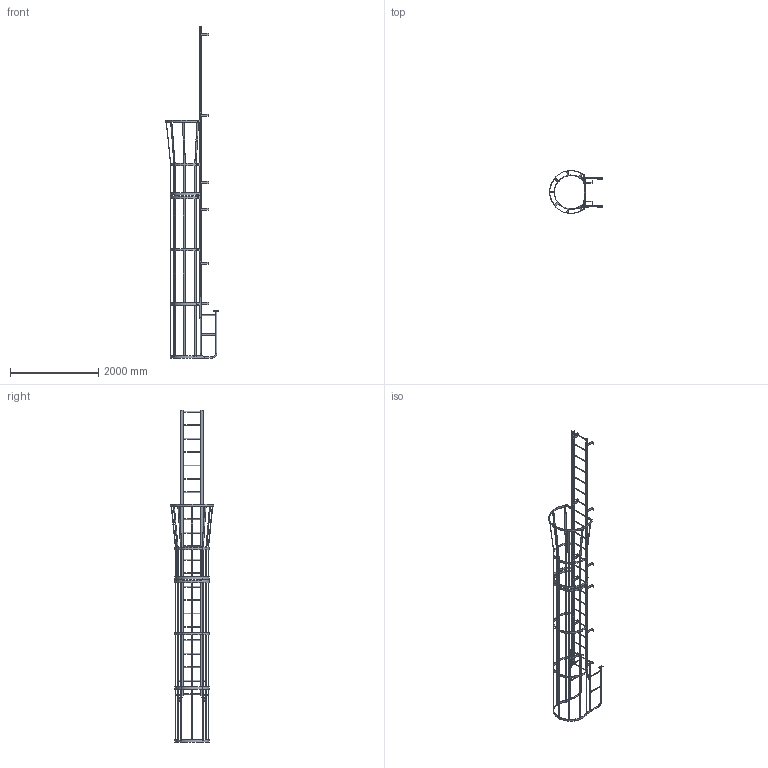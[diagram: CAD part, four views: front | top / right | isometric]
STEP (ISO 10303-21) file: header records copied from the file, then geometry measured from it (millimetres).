
FILE_DESCRIPTION(/* description */ (''),/* implementation_level */ '2;1');
FILE_NAME(/* name */ 'P:\MIKEL & KAREN\D0570196-08 F22WC SIMPLIFIED PART.stp',/* time_stamp */ '2018-07-03T08:18:14-04:00',/* author */ ('stephanie'),/* organization */ (''),/* preprocessor_version */ 'ST-DEVELOPER v16.1',/* originating_system */ 'Autodesk Inventor 2016',/* authorisation */ '');
FILE_SCHEMA (('AUTOMOTIVE_DESIGN { 1 0 10303 214 3 1 1 }'));
Length unit declared in the file: centimetre
Products named in the file (1): D0570196-08 F22WC SIMPLIFIED PART
Bounding box: 1195.62 x 977.88 x 7521.57 mm (x, y, z)
Volume: 23899518.5 mm3; surface area: 9254160.7 mm2
Topology: 36 solids, 36 shells, 784 faces, 2318 edges, 1500 vertices
Faces by surface type: plane 502, cylinder 274, torus 8
Full cylindrical faces by diameter (mm): 10.319 x4, 14.287 x14, 19.05 x22, 22.098 x10, 22.225 x44, 25.4 x10
Entity records: 26682 total; most frequent: CARTESIAN_POINT 4763, ORIENTED_EDGE 4408, DIRECTION 4344, EDGE_CURVE 2142, LINE 1478, VECTOR 1478, VERTEX_POINT 1436, AXIS2_PLACEMENT_3D 1433
